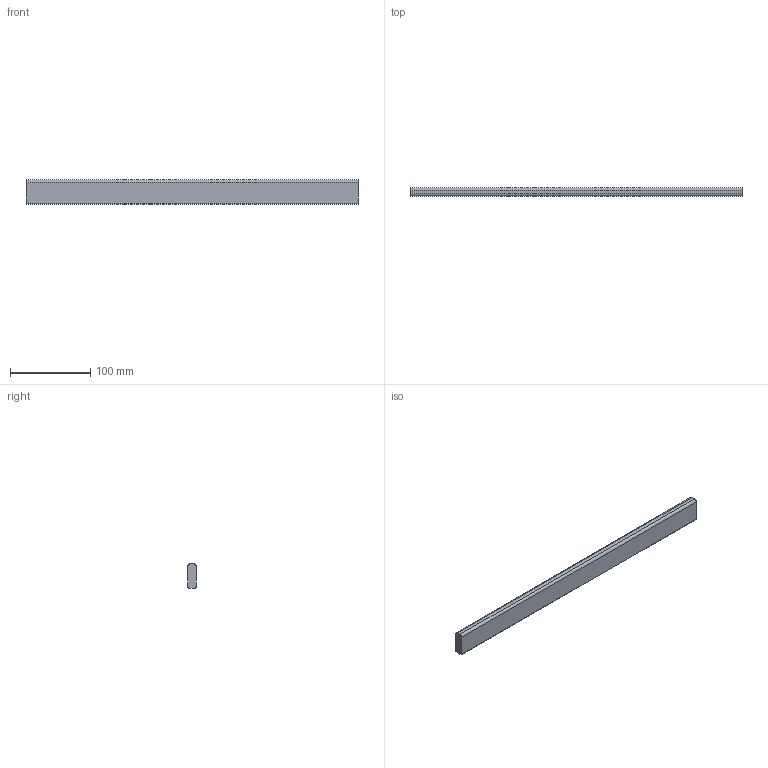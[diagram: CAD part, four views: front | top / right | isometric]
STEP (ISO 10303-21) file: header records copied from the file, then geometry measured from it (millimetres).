
FILE_DESCRIPTION (( 'STEP AP214' ), '1' );
FILE_NAME ('_Querreling_KAB-500_KS-16.step', '2010-08-26T14:59:00', ( 'grass' ), ( '' ), 'SwSTEP 2.0', 'SolidWorks 2009', '' );
FILE_SCHEMA (( 'AUTOMOTIVE_DESIGN' ));
Length unit declared in the file: millimetre
Products named in the file (1): _Querreling_KAB-500_KS-16
Bounding box: 412.5 x 10.5 x 30 mm (x, y, z)
Volume: 128167 mm3; surface area: 32617.5 mm2
Topology: 1 solids, 1 shells, 10 faces, 24 edges, 16 vertices
Faces by surface type: plane 6, cylinder 4
Entity records: 330 total; most frequent: DIRECTION 54, CARTESIAN_POINT 51, ORIENTED_EDGE 48, EDGE_CURVE 24, AXIS2_PLACEMENT_3D 19, VECTOR 16, LINE 16, VERTEX_POINT 16
